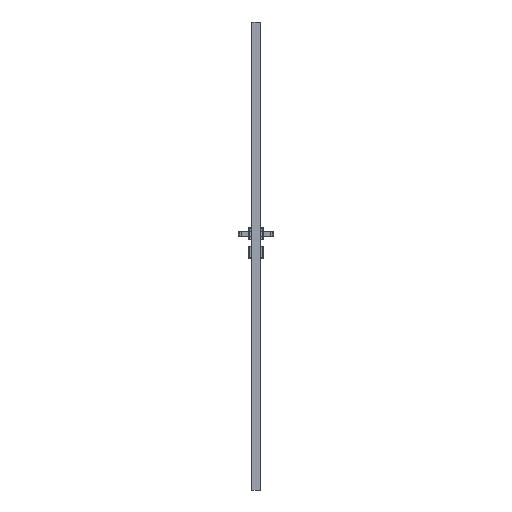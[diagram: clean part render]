
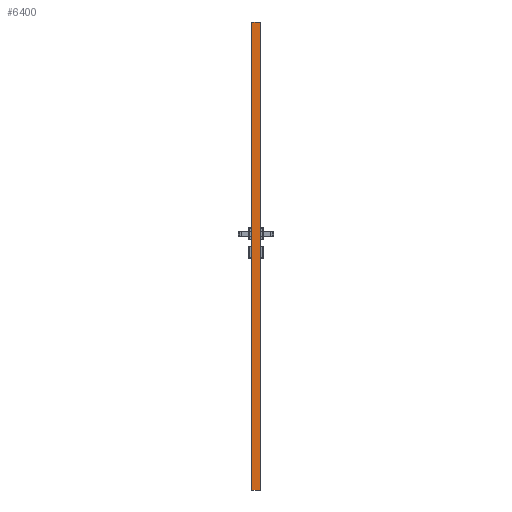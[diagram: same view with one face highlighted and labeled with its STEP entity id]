
A CAD part, left-side view. The second image highlights one B-rep face of the part: STEP entity #6400.
In plain terms, the highlighted planar face has unit normal (-1, 0, 0).
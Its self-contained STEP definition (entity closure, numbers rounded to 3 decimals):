
#4048=FACE_OUTER_BOUND('',#11720,.T.);
#6400=ADVANCED_FACE('',(#4048),#7966,.F.);
#7966=PLANE('',#45654);
#11720=EDGE_LOOP('',(#21213,#21214,#21215,#21216));
#21213=ORIENTED_EDGE('',*,*,#33673,.T.);
#21214=ORIENTED_EDGE('',*,*,#33674,.F.);
#21215=ORIENTED_EDGE('',*,*,#33675,.T.);
#21216=ORIENTED_EDGE('',*,*,#33676,.T.);
#28183=VERTEX_POINT('',#71546);
#28184=VERTEX_POINT('',#71547);
#28185=VERTEX_POINT('',#71549);
#28186=VERTEX_POINT('',#71551);
#33673=EDGE_CURVE('',#28183,#28184,#38251,.T.);
#33674=EDGE_CURVE('',#28185,#28184,#38252,.T.);
#33675=EDGE_CURVE('',#28185,#28186,#38253,.T.);
#33676=EDGE_CURVE('',#28186,#28183,#38254,.T.);
#38251=LINE('',#71545,#41959);
#38252=LINE('',#71548,#41960);
#38253=LINE('',#71550,#41961);
#38254=LINE('',#71552,#41962);
#41959=VECTOR('',#54890,1.);
#41960=VECTOR('',#54891,1.);
#41961=VECTOR('',#54892,1.);
#41962=VECTOR('',#54893,1.);
#45654=AXIS2_PLACEMENT_3D('',#71553,#54894,#54895);
#54890=DIRECTION('',(0.,1.,0.));
#54891=DIRECTION('',(0.,0.,1.));
#54892=DIRECTION('',(0.,-1.,0.));
#54893=DIRECTION('',(0.,0.,1.));
#54894=DIRECTION('',(1.,0.,0.));
#54895=DIRECTION('',(0.,1.,0.));
#71545=CARTESIAN_POINT('',(-309.,-38.35,2017.01));
#71546=CARTESIAN_POINT('',(-309.,-38.35,2017.005));
#71547=CARTESIAN_POINT('',(-309.,-1.65,2017.005));
#71548=CARTESIAN_POINT('',(-309.,-1.65,0.));
#71549=CARTESIAN_POINT('',(-309.,-1.65,0.));
#71550=CARTESIAN_POINT('',(-309.,-38.35,0.));
#71551=CARTESIAN_POINT('',(-309.,-38.35,0.));
#71552=CARTESIAN_POINT('',(-309.,-38.35,0.));
#71553=CARTESIAN_POINT('',(-309.,-38.35,0.));
